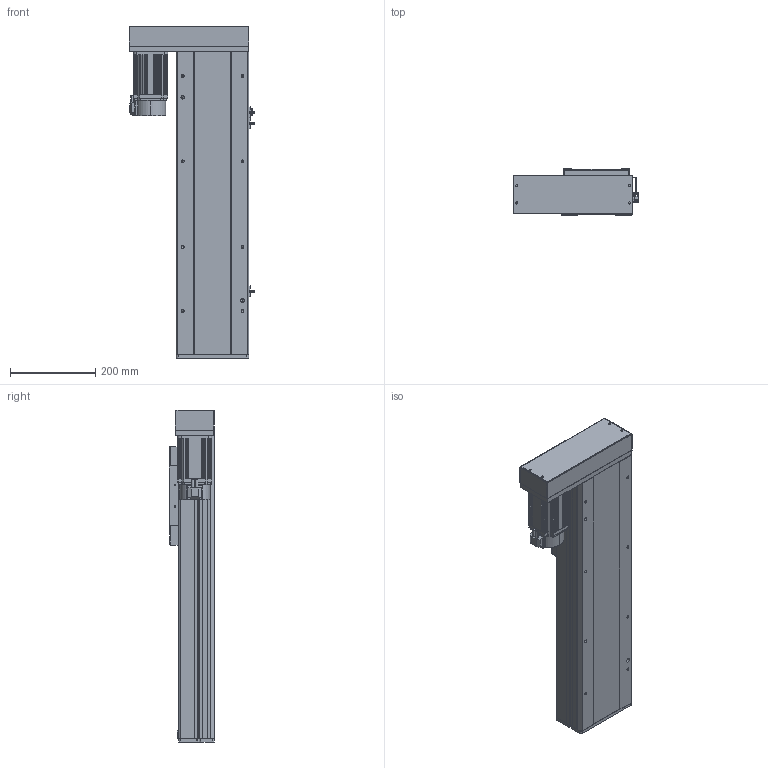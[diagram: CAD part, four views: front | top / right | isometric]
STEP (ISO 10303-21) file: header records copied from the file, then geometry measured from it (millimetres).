
FILE_DESCRIPTION (( 'STEP AP214' ), '1' );
FILE_NAME ('TPF17-400-BR-P75.STEP', '2023-03-28T12:26:13', ( '' ), ( '' ), 'SwSTEP 2.0', 'SolidWorks 2020', '' );
FILE_SCHEMA (( 'AUTOMOTIVE_DESIGN' ));
Length unit declared in the file: millimetre
Products named in the file (9): 葩璃 TPF17 賑雄殤^TPF17-BR-P75; TPF17-400-BR-P75; 葩璃 侂狟750W^TPF17-BR-P75; 葩璃 TPF17-BC-002 耜裔ZTMZ-135-04^TPF17-BR-P75; 葩璃 pm-t65-672^TPF17-BR-P75; 葩璃 詩湍110^TPF17-BR-P75; 葩璃 TPF17-BL R-009 萇儂啣^TPF17-BR-P75_750W; hexagon socket head cap screws gb_GB_FASTENER_SCREWS_HSHCS M6X10-N; 葩璃 TPF17-BC-001 菁釱MZ-170-01^TPF17-BR-P75
Assembly tree (12 placements, depth 2):
  TPF17-400-BR-P75
    葩璃 TPF17-BC-001 菁釱MZ-170-01^TPF17-BR-P75
    葩璃 TPF17-BC-002 耜裔ZTMZ-135-04^TPF17-BR-P75  x2
    葩璃 詩湍110^TPF17-BR-P75
    葩璃 TPF17 賑雄殤^TPF17-BR-P75
    葩璃 TPF17-BL R-009 萇儂啣^TPF17-BR-P75_750W
    葩璃 pm-t65-672^TPF17-BR-P75  x3
    葩璃 侂狟750W^TPF17-BR-P75
    hexagon socket head cap screws gb_GB_FASTENER_SCREWS_HSHCS M6X10-N  x2
Bounding box: 293.7 x 107 x 777 mm (x, y, z)
Volume: 7745898.8 mm3; surface area: 1190909.6 mm2
Topology: 20 solids, 20 shells, 1299 faces, 3430 edges, 2187 vertices
Faces by surface type: plane 848, cylinder 355, cone 55, bspline 37, torus 4
Entity records: 33339 total; most frequent: CARTESIAN_POINT 6613, ORIENTED_EDGE 5296, DIRECTION 5229, EDGE_CURVE 2648, VECTOR 1913, LINE 1913, VERTEX_POINT 1702, AXIS2_PLACEMENT_3D 1658
